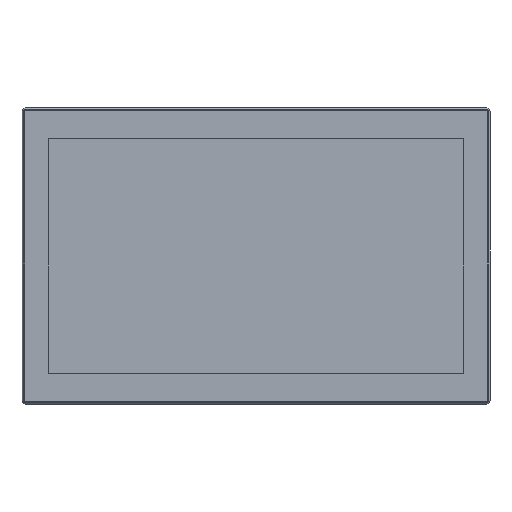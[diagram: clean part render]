
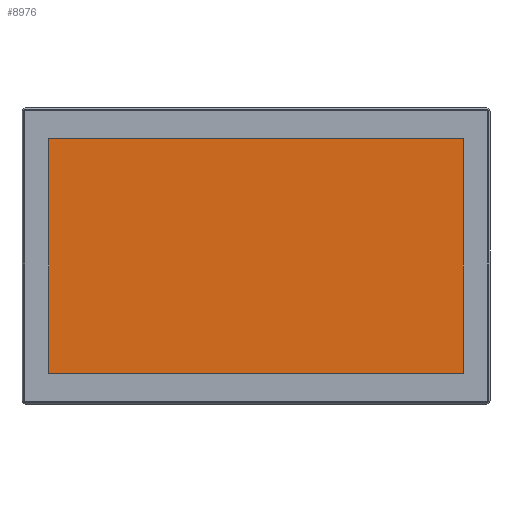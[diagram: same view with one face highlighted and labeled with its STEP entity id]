
A CAD part, top view. The second image highlights one B-rep face of the part: STEP entity #8976.
In plain terms, the highlighted planar face has unit normal (0, 0, 1).
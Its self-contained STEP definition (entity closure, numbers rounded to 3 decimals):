
#947 = ORIENTED_EDGE ( 'NONE', *, *, #91411, .F. ) ;
#7820 = VERTEX_POINT ( 'NONE', #72647 ) ;
#8223 = LINE ( 'NONE', #80200, #76608 ) ;
#8976 = ADVANCED_FACE ( 'NONE', ( #96978 ), #46744, .F. ) ;
#10467 = VECTOR ( 'NONE', #93061, 1000. ) ;
#10717 = CARTESIAN_POINT ( 'NONE',  ( 231.8, 30.8, 65.84 ) ) ;
#12738 = LINE ( 'NONE', #30593, #84770 ) ;
#16434 = VERTEX_POINT ( 'NONE', #66515 ) ;
#18868 = AXIS2_PLACEMENT_3D ( 'NONE', #32199, #61628, #24305 ) ;
#23009 = VERTEX_POINT ( 'NONE', #59099 ) ;
#24305 = DIRECTION ( 'NONE',  ( -1., 0., 0. ) ) ;
#24869 = ORIENTED_EDGE ( 'NONE', *, *, #92820, .F. ) ;
#30593 = CARTESIAN_POINT ( 'NONE',  ( 437.2, 146.8, 65.84 ) ) ;
#32199 = CARTESIAN_POINT ( 'NONE',  ( 231.8, 146.8, 65.84 ) ) ;
#40715 = CARTESIAN_POINT ( 'NONE',  ( 26.4, 30.8, 65.84 ) ) ;
#41946 = DIRECTION ( 'NONE',  ( -1., 0., 0. ) ) ;
#46744 = PLANE ( 'NONE',  #18868 ) ;
#59099 = CARTESIAN_POINT ( 'NONE',  ( 437.2, 262.8, 65.84 ) ) ;
#59485 = LINE ( 'NONE', #10717, #73611 ) ;
#61628 = DIRECTION ( 'NONE',  ( 0., 0., -1. ) ) ;
#66515 = CARTESIAN_POINT ( 'NONE',  ( 26.4, 262.8, 65.84 ) ) ;
#71661 = EDGE_CURVE ( 'NONE', #16434, #23009, #90720, .T. ) ;
#72647 = CARTESIAN_POINT ( 'NONE',  ( 437.2, 30.8, 65.84 ) ) ;
#72979 = EDGE_LOOP ( 'NONE', ( #83783, #947, #94244, #24869 ) ) ;
#73611 = VECTOR ( 'NONE', #41946, 1000. ) ;
#74919 = EDGE_CURVE ( 'NONE', #7820, #92002, #59485, .T. ) ;
#76608 = VECTOR ( 'NONE', #96041, 1000. ) ;
#80200 = CARTESIAN_POINT ( 'NONE',  ( 26.4, 146.8, 65.84 ) ) ;
#83761 = DIRECTION ( 'NONE',  ( 0., -1., 0. ) ) ;
#83783 = ORIENTED_EDGE ( 'NONE', *, *, #71661, .F. ) ;
#84770 = VECTOR ( 'NONE', #83761, 1000. ) ;
#90720 = LINE ( 'NONE', #93392, #10467 ) ;
#91411 = EDGE_CURVE ( 'NONE', #92002, #16434, #8223, .T. ) ;
#92002 = VERTEX_POINT ( 'NONE', #40715 ) ;
#92820 = EDGE_CURVE ( 'NONE', #23009, #7820, #12738, .T. ) ;
#93061 = DIRECTION ( 'NONE',  ( 1., 0., 0. ) ) ;
#93392 = CARTESIAN_POINT ( 'NONE',  ( 231.8, 262.8, 65.84 ) ) ;
#94244 = ORIENTED_EDGE ( 'NONE', *, *, #74919, .F. ) ;
#96041 = DIRECTION ( 'NONE',  ( 0., 1., 0. ) ) ;
#96978 = FACE_OUTER_BOUND ( 'NONE', #72979, .T. ) ;
